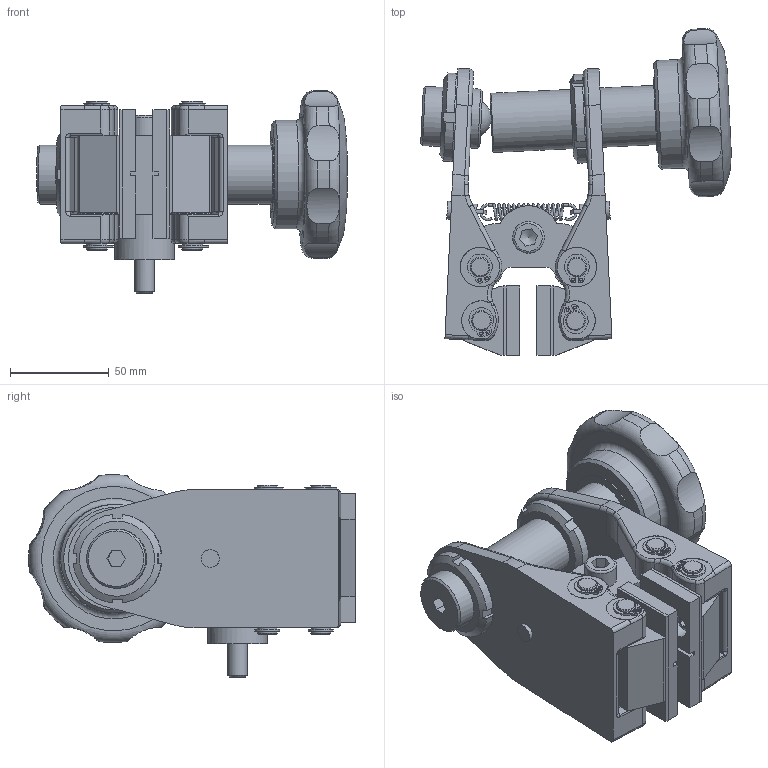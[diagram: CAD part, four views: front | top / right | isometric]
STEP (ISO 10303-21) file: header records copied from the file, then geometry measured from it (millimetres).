
FILE_DESCRIPTION(/* description */ ('','CAx-IF Rec.Pracs.---Representation and Presentation of Product Manufacturing Information (PMI)---4.0---2014-10-13'),/* implementation_level */ '2;1');
FILE_NAME(/* name */ 'X:\INVENTOR\DISEGNI\19_Pinze\STEP x Sito\19_06_000_02 PMB000_08.stp',/* time_stamp */ '2018-01-31T16:11:07+01:00',/* author */ ('stefano'),/* organization */ (''),/* preprocessor_version */ 'ST-DEVELOPER v17',/* originating_system */ 'Autodesk Inventor 2018',/* authorisation */ '');
FILE_SCHEMA (('AP242_MANAGED_MODEL_BASED_3D_ENGINEERING_MIM_LF { 1 0 10303 442 1 1 4 }'));
Length unit declared in the file: millimetre
Products named in the file (1): 19_06_000_02 PMB000_08_Substitute_1
Bounding box: 157.16 x 165.27 x 102.44 mm (x, y, z)
Volume: 524037.4 mm3; surface area: 121311.6 mm2
Topology: 4 solids, 4 shells, 632 faces, 1703 edges, 1114 vertices
Faces by surface type: plane 300, cylinder 218, torus 64, cone 29, bspline 18, sphere 3
Full cylindrical faces by diameter (mm): 1.2 x2, 1.5 x16, 2.5 x2, 7.4 x2, 7.5 x2, 9 x2, 9.5 x8, 10 x19, 10.1 x1, 10.5 x4, 12 x4, 16 x1, 22.3 x1, 28.4 x1, 30 x5, 31 x1, 38 x2, 55 x1
Entity records: 23577 total; most frequent: CARTESIAN_POINT 6975, DIRECTION 3498, ORIENTED_EDGE 3370, EDGE_CURVE 1685, AXIS2_PLACEMENT_3D 1354, VERTEX_POINT 1114, LINE 790, VECTOR 790
